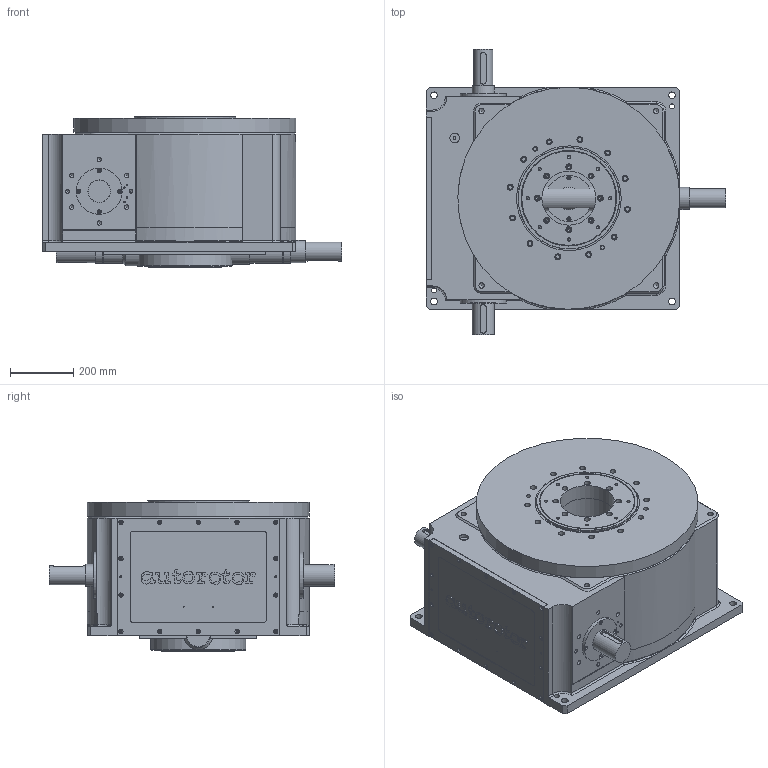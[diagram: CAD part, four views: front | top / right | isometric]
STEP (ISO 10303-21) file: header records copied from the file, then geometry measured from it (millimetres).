
FILE_DESCRIPTION( ( 'Unknown' ), '1' );
FILE_NAME( 'X:/solid edge/TAVOLE/T95/Schemi/T95.stp', 'Unknown', ( 'Unknown' ), ( 'Unknown' ), 'PSStep 11.0', 'Unknown', ' ' );
FILE_SCHEMA( ( 'AUTOMOTIVE_DESIGN { 1 0 10303 214 1 1 1 1 }' ) );
Length unit declared in the file: millimetre
Products named in the file (7): Assem1; 208367; 02716_; 02717_; 31323_; 32603_; 211119
Bounding box: 945 x 900 x 474.5 mm (x, y, z)
Volume: 187918093.8 mm3; surface area: 11229043 mm2
Topology: 13 solids, 13 shells, 2290 faces, 6187 edges, 3957 vertices
Faces by surface type: plane 1198, cylinder 646, cone 254, torus 108, sphere 72, bspline 12
Full cylindrical faces by diameter (mm): 2.5 x4, 3.242 x6, 4.134 x16, 4.917 x44, 6.5 x40, 6.647 x4, 8.376 x2, 10.106 x58, 11.5 x8, 11.835 x4, 12.5 x40, 13.835 x24, 14.5 x4, 16 x4, 17.294 x8, 18.5 x40, 21 x8, 30 x2, 60 x2, 70 x4, 71 x4, 71.5 x3, 75 x8, 80 x2, 90 x5, 100 x3, 102 x4, 109.5 x3, 115 x7, 145 x3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
Entity records: 41704 total; most frequent: CARTESIAN_POINT 6846, DIRECTION 5456, ORIENTED_EDGE 4890, EDGE_CURVE 2445, AXIS2_PLACEMENT_3D 1920, VERTEX_POINT 1798, EDGE_LOOP 1639, LINE 1616
